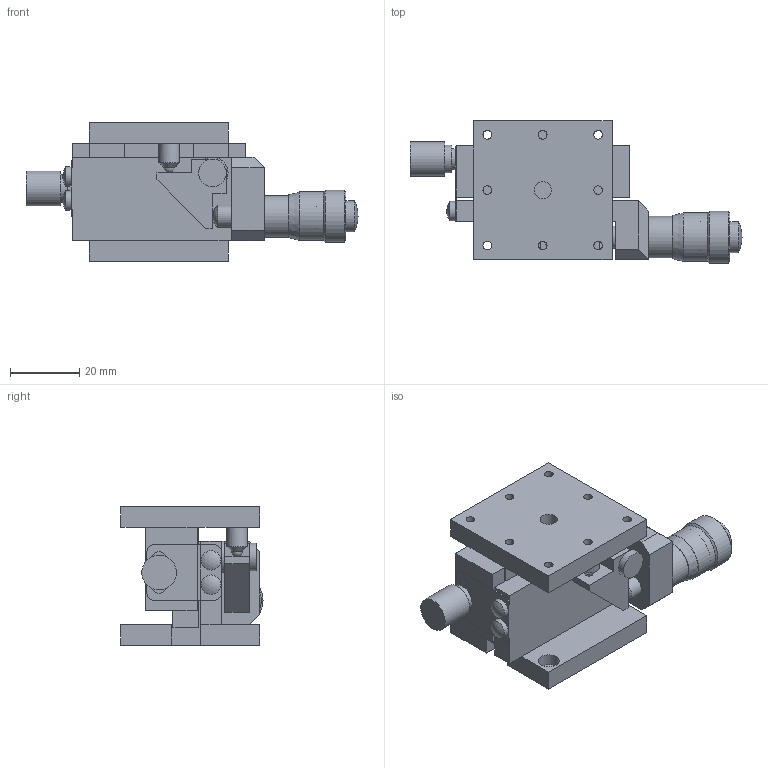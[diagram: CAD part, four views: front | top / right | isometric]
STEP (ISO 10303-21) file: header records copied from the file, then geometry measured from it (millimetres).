
FILE_DESCRIPTION( ( 'STEP AP214' ), '1' );
FILE_NAME( 'C:/Project/3D_B33-40A-配布-070508.stp', '2007-05-08T10:43:24', ( ' ' ), ( ' ' ), 'XStep 1.0', ' ', ' ' );
FILE_SCHEMA( ( 'automotive_design' ) );
Length unit declared in the file: millimetre
Products named in the file (4): 1; 2; 3; 4
Bounding box: 95.8 x 41 x 40 mm (x, y, z)
Volume: 52279.9 mm3; surface area: 22324.3 mm2
Topology: 4 solids, 4 shells, 142 faces, 346 edges, 226 vertices
Faces by surface type: plane 93, cylinder 39, cone 5, sphere 4, bspline 1
Full cylindrical faces by diameter (mm): 2.5 x8, 3.5 x3, 4 x1, 5 x3, 5.6 x2, 6 x5, 6.35 x2, 8 x2, 9 x2, 10 x1, 12 x1, 13.6 x1, 14 x1, 15 x1
Entity records: 5105 total; most frequent: CARTESIAN_POINT 681, DIRECTION 667, ORIENTED_EDGE 586, EDGE_CURVE 293, AXIS2_PLACEMENT_3D 229, EDGE_LOOP 223, VERTEX_POINT 215, LINE 209
